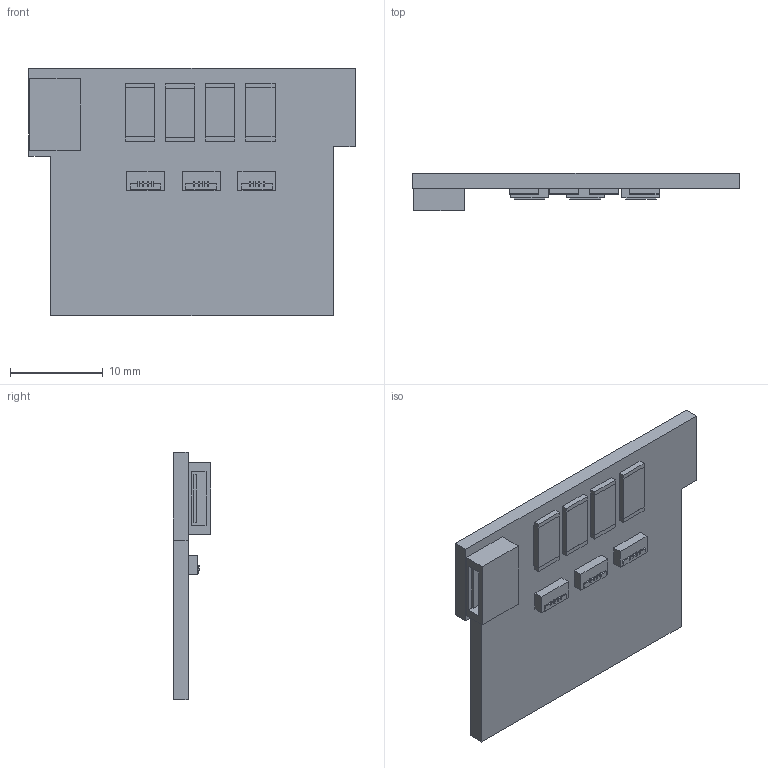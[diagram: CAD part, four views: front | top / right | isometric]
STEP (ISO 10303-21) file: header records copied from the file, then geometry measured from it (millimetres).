
FILE_DESCRIPTION(('Open CASCADE Model'),'2;1');
FILE_NAME('gelslim-mini-led-driver-pcb.step','2026-11-14T14:29:28',( 'Author'),('Open CASCADE'),'Open CASCADE STEP processor 8.0', 'Open CASCADE 8.0','Unknown');
FILE_SCHEMA(('AP242_MANAGED_MODEL_BASED_3D_ENGINEERING_MIM_LF {1 0 10303 442 1 1 4 }' ));
Length unit declared in the file: millimetre
Products named in the file (1): GelSlim Mini LED Driver PCB
Bounding box: 35.28 x 4.03 x 26.69 mm (x, y, z)
Volume: 1528.8 mm3; surface area: 2486.8 mm2
Topology: 33 solids, 33 shells, 217 faces, 450 edges, 300 vertices
Faces by surface type: plane 211, cylinder 6
Entity records: 11713 total; most frequent: CARTESIAN_POINT 1940, DIRECTION 1786, LINE 1326, VECTOR 1326, ORIENTED_EDGE 900, PCURVE 900, DEFINITIONAL_REPRESENTATION 900, EDGE_CURVE 450
